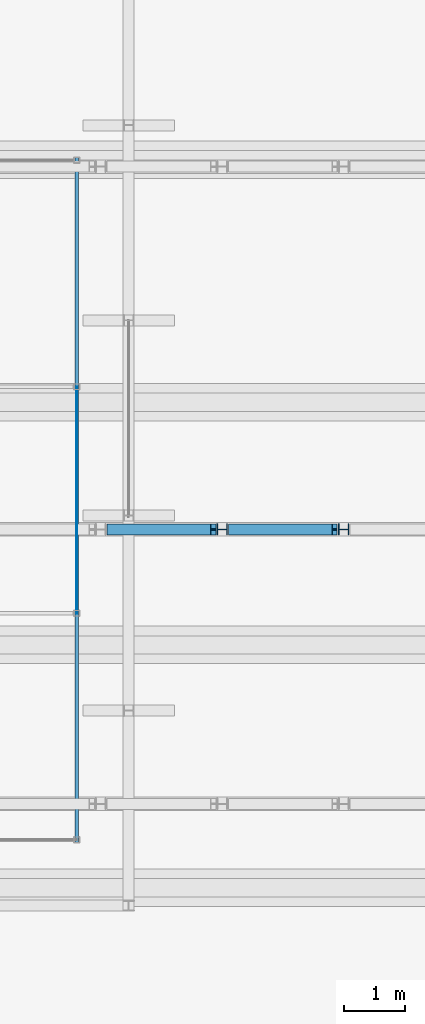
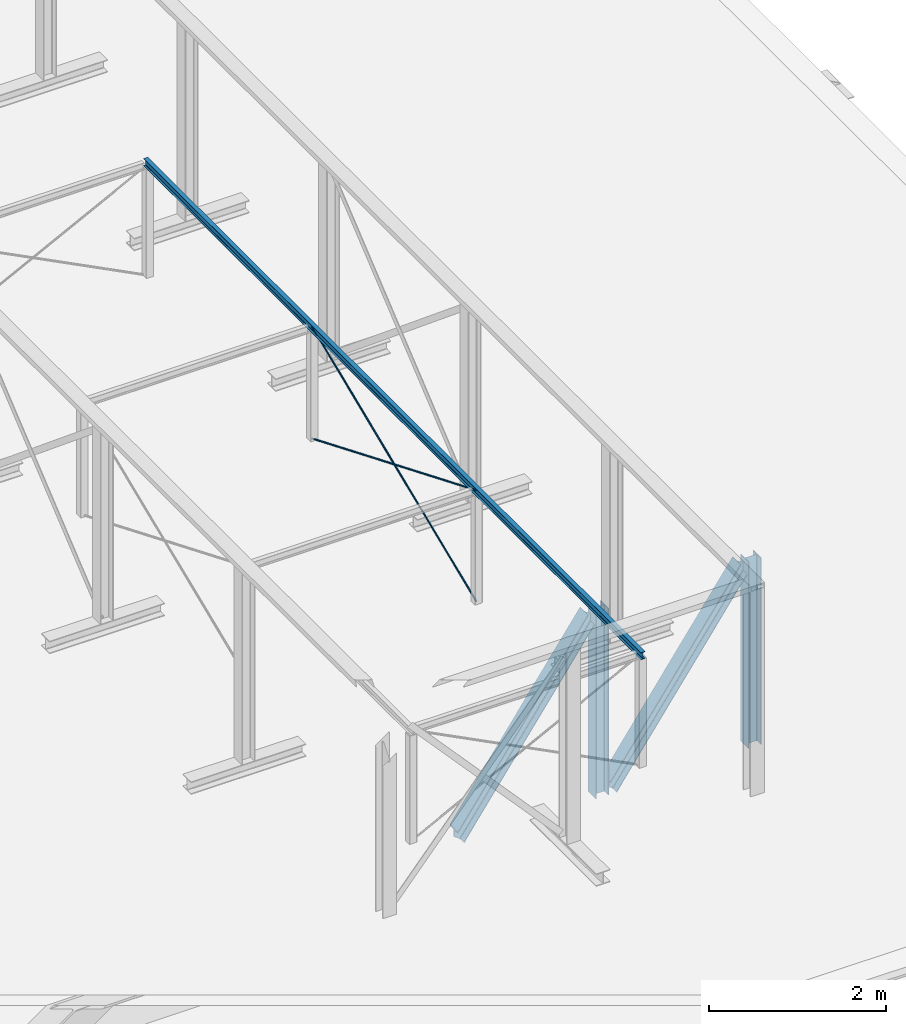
# One storey, part 12 of 50: 7 beams.
"""IFC2X3 building model written with IfcOpenShell, lengths in millimetres."""

from ifc_helpers import new_model, entity, si_unit, converted_unit, derived_unit, direction, frame, frame_2d, origin, place, context, subcontext, project, spatial, polyline, circle_curve, parameter, trimmed, segment, composite_curve, circle, i_section, outline, extrude, clip, halfspace, material, type_object, element, save


model = new_model("IFC2X3")

# Units and contexts
model_context = context("Model", 3, precision=0.01, world=origin(), true_north=direction((6.12303176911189e-17, 1.0)))
body_context = subcontext(model_context, "Body", "Model", "MODEL_VIEW")
ifc_project = project(units=[si_unit("LENGTHUNIT", "METRE", prefix="MILLI"), si_unit("AREAUNIT", "SQUARE_METRE", prefix="MILLI"), si_unit("VOLUMEUNIT", "CUBIC_METRE"), converted_unit("PLANEANGLEUNIT", "DEGREE", entity("IfcRatioMeasure", 0.0174532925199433), si_unit("PLANEANGLEUNIT", "RADIAN"), dimensions=[0, 0, 0, 0, 0, 0, 0]), si_unit("MASSUNIT", "GRAM", prefix="KILO"), derived_unit("MASSDENSITYUNIT", [(si_unit("MASSUNIT", "GRAM", prefix="KILO"), 1), (si_unit("LENGTHUNIT", "METRE"), -3)]), derived_unit("MOMENTOFINERTIAUNIT", [(si_unit("LENGTHUNIT", "METRE"), 4)]), si_unit("TIMEUNIT", "SECOND"), si_unit("FREQUENCYUNIT", "HERTZ"), si_unit("THERMODYNAMICTEMPERATUREUNIT", "DEGREE_CELSIUS"), derived_unit("THERMALTRANSMITTANCEUNIT", [(si_unit("MASSUNIT", "GRAM", prefix="KILO"), 1), (si_unit("THERMODYNAMICTEMPERATUREUNIT", "KELVIN"), -1), (si_unit("TIMEUNIT", "SECOND"), -3)]), derived_unit("VOLUMETRICFLOWRATEUNIT", [(si_unit("LENGTHUNIT", "METRE"), 3), (si_unit("TIMEUNIT", "SECOND"), -1)]), si_unit("ELECTRICCURRENTUNIT", "AMPERE"), si_unit("ELECTRICVOLTAGEUNIT", "VOLT"), si_unit("POWERUNIT", "WATT"), si_unit("FORCEUNIT", "NEWTON", prefix="KILO"), si_unit("ILLUMINANCEUNIT", "LUX"), si_unit("LUMINOUSFLUXUNIT", "LUMEN"), si_unit("LUMINOUSINTENSITYUNIT", "CANDELA"), derived_unit("USERDEFINED", [(si_unit("MASSUNIT", "GRAM", prefix="KILO"), -1), (si_unit("LENGTHUNIT", "METRE"), -2), (si_unit("TIMEUNIT", "SECOND"), 3), (si_unit("LUMINOUSFLUXUNIT", "LUMEN"), 1)]), derived_unit("LINEARVELOCITYUNIT", [(si_unit("LENGTHUNIT", "METRE"), 1), (si_unit("TIMEUNIT", "SECOND"), -1)]), si_unit("PRESSUREUNIT", "PASCAL"), derived_unit("USERDEFINED", [(si_unit("LENGTHUNIT", "METRE"), -2), (si_unit("MASSUNIT", "GRAM", prefix="KILO"), 1), (si_unit("TIMEUNIT", "SECOND"), -2)]), derived_unit("LINEARFORCEUNIT", [(si_unit("MASSUNIT", "GRAM", prefix="KILO"), 1), (si_unit("LENGTHUNIT", "METRE"), 1), (si_unit("TIMEUNIT", "SECOND"), -2), (si_unit("LENGTHUNIT", "METRE"), -1)]), derived_unit("PLANARFORCEUNIT", [(si_unit("MASSUNIT", "GRAM", prefix="KILO"), 1), (si_unit("LENGTHUNIT", "METRE"), 1), (si_unit("TIMEUNIT", "SECOND"), -2), (si_unit("LENGTHUNIT", "METRE"), -2)])], contexts=[model_context])

# Site, building, storey
site_placement = place(None, origin())
site = spatial("IfcSite", under=ifc_project, at=site_placement, Name="Theater aan de Parade", CompositionType="ELEMENT")
building_placement = place(site_placement, origin())
building = spatial("IfcBuilding", under=site, at=building_placement, Name="Theater aan de Parade", CompositionType="ELEMENT")
storey_placement = place(building_placement, frame((0.0, 0.0, 15820.0)))
storey = spatial("IfcBuildingStorey", under=building, at=storey_placement, Name="04 vierde verdieping", CompositionType="ELEMENT", Elevation=15820.0)

# Beams
ifc_material = material(Name="00_PBT_MAT_staal_S355")
beam_type_1 = type_object("IfcBeamType", Name="28_PBT_SF_staal_H-profiel:S355_HE180A", PredefinedType="NOTDEFINED")
beam_1_placement = place(storey_placement, frame((30087.8569884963, 23568.2922984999, -4340.0), z_axis=(1.0, 0.0, 0.0), x_axis=(0.0, 0.0, 1.0)))
element("IfcBeam", 1, at=beam_1_placement, inside=storey, type_object=beam_type_1, material=ifc_material, Name="28_PBT_SF_staal_H-profiel:S355_HE180A", ObjectType="28_PBT_SF_staal_H-profiel:S355_HE180A", context=body_context, shape_type="SweptSolid", body=[
    extrude(i_section(OverallWidth=179.999999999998, OverallDepth=171.0, WebThickness=6.00000000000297, FlangeThickness=9.49999999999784, FilletRadius=15.0000000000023, at=frame_2d((-2.16715534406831e-12, 2.16715534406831e-12), x_axis=(0.0, 1.0))), frame((122.7, 0.0, 0.0), z_axis=(1.0, 0.0, 0.0), x_axis=(0.0, 0.0, -1.0)), (0.0, 0.0, 1.0), 2574.60000000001),
])
beam_2_placement = place(storey_placement, frame((32079.8569884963, 23568.2922984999, -4340.0), z_axis=(1.0, 0.0, 0.0), x_axis=(0.0, 0.0, 1.0)))
element("IfcBeam", 2, at=beam_2_placement, inside=storey, type_object=beam_type_1, material=ifc_material, Name="28_PBT_SF_staal_H-profiel:S355_HE180A", ObjectType="28_PBT_SF_staal_H-profiel:S355_HE180A", context=body_context, shape_type="SweptSolid", body=[
    extrude(i_section(OverallWidth=179.999999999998, OverallDepth=171.0, WebThickness=6.00000000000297, FlangeThickness=9.49999999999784, FilletRadius=15.0000000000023, at=frame_2d((6.49436060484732e-12, -2.16715534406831e-12), x_axis=(0.0, 1.0))), frame((122.7, 0.0, 0.0), z_axis=(1.0, 0.0, 0.0), x_axis=(0.0, 0.0, -1.0)), (0.0, 0.0, 1.0), 2574.60000000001),
])
beam_3_placement = place(storey_placement, frame((28095.8569884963, 23568.2922984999, -4340.0), z_axis=(0.816775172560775, 0.0, -0.576956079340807), x_axis=(0.576956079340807, 0.0, 0.816775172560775)))
element("IfcBeam", 3, at=beam_3_placement, inside=storey, type_object=beam_type_1, material=ifc_material, Name="28_PBT_SF_staal_H-profiel:S355_HE180A", ObjectType="28_PBT_SF_staal_H-profiel:S355_HE180A", context=body_context, shape_type="Clipping", body=[
    clip(clip(extrude(outline(composite_curve([segment(polyline([(76.0, -90.0), (85.4999999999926, -90.0)]), True, "CONTINUOUS"), segment(polyline([(85.4999999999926, -90.0), (85.4999999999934, 90.0)]), True, "CONTINUOUS"), segment(polyline([(85.4999999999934, 90.0), (76.0, 90.0)]), True, "CONTINUOUS"), segment(polyline([(76.0, 90.0), (76.0, 18.0)]), True, "CONTINUOUS"), segment(trimmed(circle_curve(frame_2d((61.0, 18.0), x_axis=(1.0, 0.0)), 14.9999999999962), [parameter(269.999999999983)], [parameter(0.0)], True, "PARAMETER"), False, "CONTINUOUS"), segment(polyline([(61.0, 3.0), (-61.0, 3.0)]), True, "CONTINUOUS"), segment(trimmed(circle_curve(frame_2d((-61.0, 18.0), x_axis=(0.0, -1.0)), 14.9999999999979), [parameter(269.999999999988)], [parameter(0.0)], True, "PARAMETER"), False, "CONTINUOUS"), segment(polyline([(-76.0, 18.0), (-76.0, 90.0)]), True, "CONTINUOUS"), segment(polyline([(-76.0, 90.0), (-85.5000000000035, 90.0)]), True, "CONTINUOUS"), segment(polyline([(-85.5000000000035, 90.0), (-85.5000000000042, -90.0)]), True, "CONTINUOUS"), segment(polyline([(-85.5000000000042, -90.0), (-76.0, -90.0)]), True, "CONTINUOUS"), segment(polyline([(-76.0, -90.0), (-76.0, -18.0)]), True, "CONTINUOUS"), segment(trimmed(circle_curve(frame_2d((-61.0, -18.0), x_axis=(-1.0, 0.0)), 14.9999999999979), [parameter(269.999999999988)], [parameter(0.0)], True, "PARAMETER"), False, "CONTINUOUS"), segment(polyline([(-61.0, -3.0), (61.0, -3.0)]), True, "CONTINUOUS"), segment(trimmed(circle_curve(frame_2d((61.0, -18.0), x_axis=(0.0, 1.0)), 14.9999999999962), [parameter(269.999999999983)], [parameter(0.0)], True, "PARAMETER"), False, "CONTINUOUS"), segment(polyline([(76.0, -18.0), (76.0, -90.0)]), True, "CONTINUOUS")], self_intersect=False)), frame((207.771728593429, 0.0, 0.0), z_axis=(1.0, 0.0, 0.0), x_axis=(0.0, 0.0, -1.0)), (0.0, 0.0, 1.0), 3037.0590394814), halfspace(frame((144.751676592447, -110.0, 26.9163913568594), z_axis=(-0.576956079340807, 0.0, -0.816775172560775), x_axis=(0.816775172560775, 0.0, -0.576956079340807)), False)), halfspace(frame((1172.31045389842, 110.0, 1481.5929736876), z_axis=(0.576956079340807, 0.0, 0.816775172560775), x_axis=(0.816775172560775, 0.0, -0.576956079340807)), False)),
])
beam_4_placement = place(storey_placement, frame((30087.8569884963, 23568.2922984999, -4340.0), z_axis=(0.816775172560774, 0.0, -0.576956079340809), x_axis=(0.576956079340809, 0.0, 0.816775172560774)))
element("IfcBeam", 4, at=beam_4_placement, inside=storey, type_object=beam_type_1, material=ifc_material, Name="28_PBT_SF_staal_H-profiel:S355_HE180A", ObjectType="28_PBT_SF_staal_H-profiel:S355_HE180A", context=body_context, shape_type="Clipping", body=[
    clip(clip(extrude(outline(composite_curve([segment(polyline([(76.0, -90.0), (85.5000000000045, -90.0)]), True, "CONTINUOUS"), segment(polyline([(85.4999999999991, -90.0), (85.4999999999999, 90.0)]), True, "CONTINUOUS"), segment(polyline([(85.4999999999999, 90.0), (76.0, 90.0)]), True, "CONTINUOUS"), segment(polyline([(76.0, 90.0), (76.0, 18.0)]), True, "CONTINUOUS"), segment(trimmed(circle_curve(frame_2d((61.0, 18.0), x_axis=(1.0, 0.0)), 14.9999999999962), [parameter(269.999999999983)], [parameter(0.0)], True, "PARAMETER"), False, "CONTINUOUS"), segment(polyline([(61.0, 3.0), (-61.0, 3.0)]), True, "CONTINUOUS"), segment(trimmed(circle_curve(frame_2d((-61.0, 18.0), x_axis=(0.0, -1.0)), 14.9999999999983), [parameter(269.999999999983)], [parameter(0.0)], True, "PARAMETER"), False, "CONTINUOUS"), segment(polyline([(-76.0, 18.0), (-76.0, 90.0)]), True, "CONTINUOUS"), segment(polyline([(-76.0, 90.0), (-85.499999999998, 90.0)]), True, "CONTINUOUS"), segment(polyline([(-85.499999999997, 90.0), (-85.4999999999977, -90.0)]), True, "CONTINUOUS"), segment(polyline([(-85.4999999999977, -90.0), (-76.0, -90.0)]), True, "CONTINUOUS"), segment(polyline([(-76.0, -90.0), (-76.0, -18.0)]), True, "CONTINUOUS"), segment(trimmed(circle_curve(frame_2d((-61.0, -18.0), x_axis=(-1.0, 0.0)), 14.9999999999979), [parameter(269.999999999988)], [parameter(0.0)], True, "PARAMETER"), False, "CONTINUOUS"), segment(polyline([(-61.0, -3.0), (61.0, -3.0)]), True, "CONTINUOUS"), segment(trimmed(circle_curve(frame_2d((61.0, -18.0), x_axis=(0.0, 1.0)), 14.9999999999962), [parameter(269.999999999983)], [parameter(0.0)], True, "PARAMETER"), False, "CONTINUOUS"), segment(polyline([(76.0, -18.0), (76.0, -90.0)]), True, "CONTINUOUS")], self_intersect=False)), frame((207.771728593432, 0.0, 0.0), z_axis=(1.0, 0.0, 0.0), x_axis=(0.0, 0.0, -1.0)), (0.0, 0.0, 1.0), 3037.0590394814), halfspace(frame((144.751676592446, -110.0, 26.9163913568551), z_axis=(-0.576956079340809, 0.0, -0.816775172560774), x_axis=(0.816775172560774, 0.0, -0.576956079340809)), False)), halfspace(frame((1172.31045389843, 110.0, 1481.59297368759), z_axis=(0.576956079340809, 0.0, 0.816775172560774), x_axis=(0.816775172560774, 0.0, -0.576956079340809)), False)),
])
beam_type_2 = type_object("IfcBeamType", Name="28_PBT_SF_staal_IPE-profiel:S355_IPE100", PredefinedType="NOTDEFINED")
beam_5_placement = place(storey_placement, frame((27703.8569986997, 18428.8337248, 1680.0), z_axis=(0.0, 0.0, 1.0), x_axis=(0.0, 1.0, 0.0)))
element("IfcBeam", 5, at=beam_5_placement, inside=storey, type_object=beam_type_2, material=ifc_material, Name="28_PBT_SF_staal_IPE-profiel:S355_IPE100", ObjectType="28_PBT_SF_staal_IPE-profiel:S355_IPE100", context=body_context, shape_type="SweptSolid", body=[
    extrude(i_section(OverallWidth=55.0000000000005, OverallDepth=99.9999999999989, WebThickness=4.1000000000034, FlangeThickness=5.6999999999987, FilletRadius=6.99999999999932, at=frame_2d((0.0, 6.49791331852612e-12), x_axis=(0.0, 1.0))), frame((0.0, 0.0, -50.0), z_axis=(1.0, 0.0, 0.0), x_axis=(0.0, 0.0, -1.0)), (0.0, 0.0, 1.0), 11245.0),
])
beam_type_3 = type_object("IfcBeamType", Name="28_PBT_SF_staal_massief_rond:S355_D16", PredefinedType="NOTDEFINED")
beam_6_placement = place(storey_placement, frame((27703.8569986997, 25905.7453211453, 91.3412191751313), z_axis=(0.0, 0.382547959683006, 0.923935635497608), x_axis=(0.0, -0.923935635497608, 0.382547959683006)))
element("IfcBeam", 6, at=beam_6_placement, inside=storey, type_object=beam_type_3, material=ifc_material, Name="28_PBT_SF_staal_massief_rond:S355_D16", ObjectType="28_PBT_SF_staal_massief_rond:S355_D16", context=body_context, shape_type="SweptSolid", body=[
    extrude(circle(Radius=7.9999999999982, at=frame_2d((-5.86300609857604e-25, 2.00099905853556e-12), x_axis=(1.0, 0.0))), frame((0.0, 0.0, 0.0), z_axis=(1.0, 0.0, 0.0), x_axis=(0.0, 1.0, 0.0)), (0.0, 0.0, 1.0), 4020.0),
])
beam_7_placement = place(storey_placement, frame((27703.8569986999, 22199.4322598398, 92.3014887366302), z_axis=(0.0, -0.382564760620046, 0.923928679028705), x_axis=(0.0, 0.923928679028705, 0.382564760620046)))
element("IfcBeam", 7, at=beam_7_placement, inside=storey, type_object=beam_type_3, material=ifc_material, Name="28_PBT_SF_staal_massief_rond:S355_D16", ObjectType="28_PBT_SF_staal_massief_rond:S355_D16", context=body_context, shape_type="SweptSolid", body=[
    extrude(circle(Radius=7.99999999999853, at=frame_2d((-5.86300609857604e-25, 2.00098399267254e-12), x_axis=(1.0, 0.0))), frame((0.0, 0.0, 0.0), z_axis=(1.0, 0.0, 0.0), x_axis=(0.0, 1.0, 0.0)), (0.0, 0.0, 1.0), 4015.0),
])

save(model, "model.ifc")
